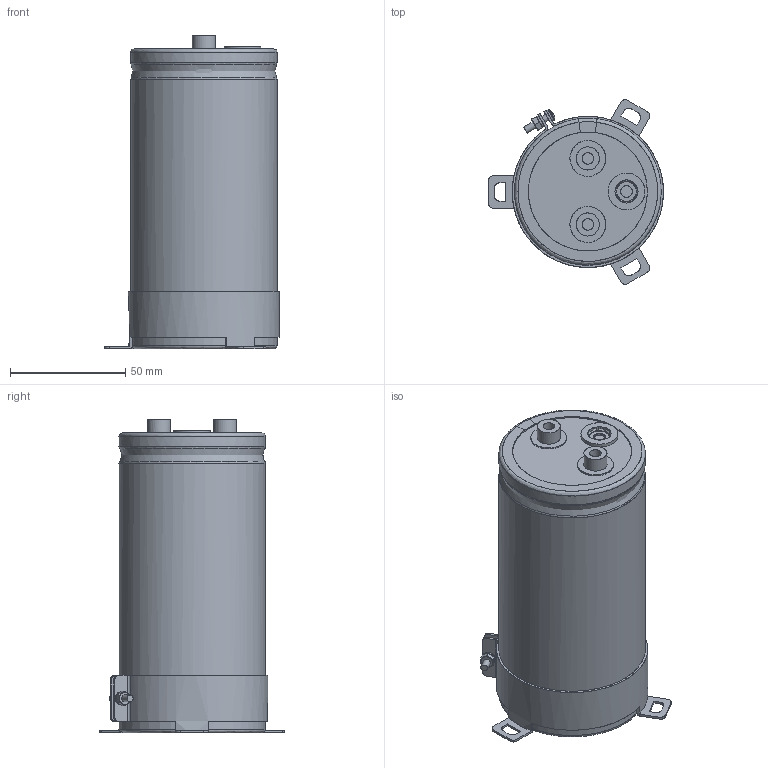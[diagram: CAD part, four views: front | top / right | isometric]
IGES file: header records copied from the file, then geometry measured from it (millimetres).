
Start section: JAMA-IS VERSION  1.0
Bounding box: 75.75 x 80.01 x 136 mm (x, y, z)
Surface area: 98823.2 mm2 (no closed solid volume)
Topology: 0 solids, 0 shells, 259 faces, 4436 edges, 4409 vertices
Faces by surface type: bspline 259
